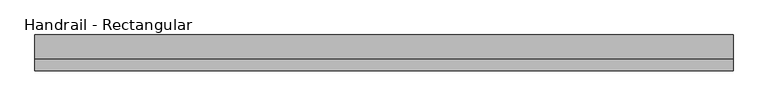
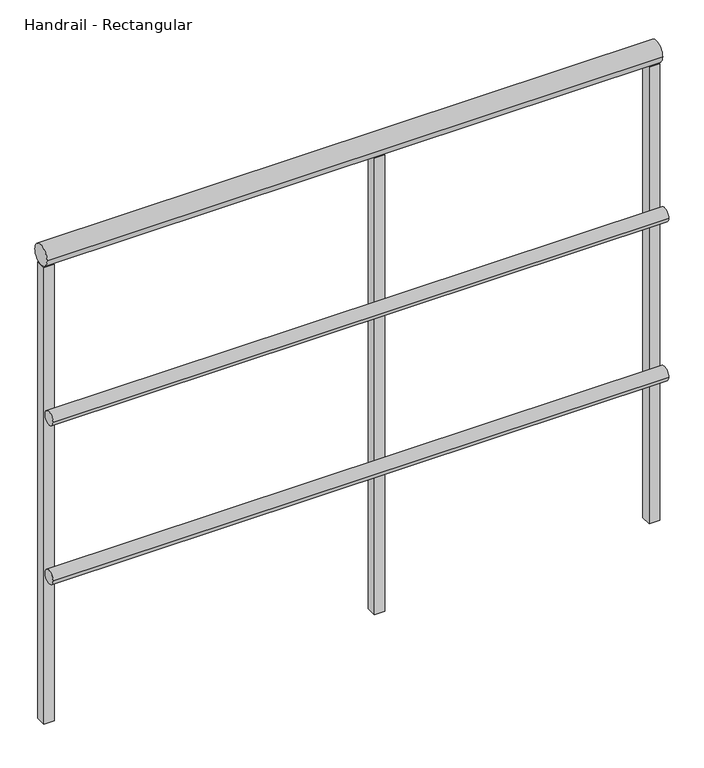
"""IFC4 building model written with IfcOpenShell, lengths in millimetres: railing geometry, Handrail - Rectangular."""

from ifc_helpers import new_model, si_unit, point, frame, frame_2d, origin, place, context, project, spatial, polyline, circle_curve, trimmed, segment, composite_curve, outline, extrude, source, transform, mapped, element, save


def handrail_rectangular_0c64ad7f(model_context):
    return source(origin(), model_context, "Body", "SweptSolid", [
        extrude(outline(composite_curve([segment(trimmed(circle_curve(frame_2d((4350.2316867, 3644.9)), 12.7), [point((4337.5316867, 3644.9))], [point((4362.9316867, 3644.9))], False, "CARTESIAN"), True, "CONTINUOUS"), segment(trimmed(circle_curve(frame_2d((4350.2316867, 3644.9)), 12.7), [point((4362.9316867, 3644.9))], [point((4337.5316867, 3644.9))], False, "CARTESIAN"), True, "CONTINUOUS")], self_intersect=False)), frame((-31964.2839563, 0.0, 0.0), z_axis=(1.0, 0.0, 0.0), x_axis=(0.0, 1.0, 0.0)), (0.0, 0.0, 1.0), 1117.6),
        extrude(outline(composite_curve([segment(trimmed(circle_curve(frame_2d((4350.2316867, 3340.1)), 12.7), [point((4337.5316867, 3340.1))], [point((4362.9316867, 3340.1))], False, "CARTESIAN"), True, "CONTINUOUS"), segment(trimmed(circle_curve(frame_2d((4350.2316867, 3340.1)), 12.7), [point((4362.9316867, 3340.1))], [point((4337.5316867, 3340.1))], False, "CARTESIAN"), True, "CONTINUOUS")], self_intersect=False)), frame((-31964.2839563, 0.0, 0.0), z_axis=(1.0, 0.0, 0.0), x_axis=(0.0, 1.0, 0.0)), (0.0, 0.0, 1.0), 1117.6),
        extrude(outline(composite_curve([segment(trimmed(circle_curve(frame_2d((4375.6316867, 3943.35)), 19.05), [point((4356.5816867, 3943.35))], [point((4394.6816867, 3943.35))], False, "CARTESIAN"), True, "CONTINUOUS"), segment(trimmed(circle_curve(frame_2d((4375.6316867, 3943.35)), 19.05), [point((4394.6816867, 3943.35))], [point((4356.5816867, 3943.35))], False, "CARTESIAN"), True, "CONTINUOUS")], self_intersect=False)), frame((-31964.2839563, 0.0, 0.0), z_axis=(1.0, 0.0, 0.0), x_axis=(0.0, 1.0, 0.0)), (0.0, 0.0, 1.0), 1117.6),
        extrude(outline(polyline([(-31364.2089563, 4385.1566867), (-31345.1589563, 4385.1566867), (-31345.1589563, 4366.1066867), (-31364.2089563, 4366.1066867), (-31364.2089563, 4385.1566867)])), frame((0.0, 0.0, 3048.0), z_axis=(0.0, 0.0, 1.0), x_axis=(1.0, 0.0, 0.0)), (0.0, 0.0, 1.0), 876.3),
        extrude(outline(polyline([(-30865.7339563, 4385.1566867), (-30846.6839563, 4385.1566867), (-30846.6839563, 4366.1066867), (-30865.7339563, 4366.1066867), (-30865.7339563, 4385.1566867)])), frame((0.0, 0.0, 3048.0), z_axis=(0.0, 0.0, 1.0), x_axis=(1.0, 0.0, 0.0)), (0.0, 0.0, 1.0), 876.3),
        extrude(outline(polyline([(-31964.2839563, 4385.1566867), (-31945.2339563, 4385.1566867), (-31945.2339563, 4366.1066867), (-31964.2839563, 4366.1066867), (-31964.2839563, 4385.1566867)])), frame((0.0, 0.0, 3048.0), z_axis=(0.0, 0.0, 1.0), x_axis=(1.0, 0.0, 0.0)), (0.0, 0.0, 1.0), 876.3),
    ])


if __name__ == "__main__":
    model = new_model("IFC4")
    model_context = context("Model", 3, world=origin())
    ifc_project = project(units=[si_unit("LENGTHUNIT", "METRE", prefix="MILLI")], contexts=[model_context])
    site = spatial("IfcSite", under=ifc_project)
    building = spatial("IfcBuilding", under=site)
    placement = place(None, origin())
    handrail_rectangular_shape = handrail_rectangular_0c64ad7f(model_context)
    element("IfcRailing", 1, ObjectType="Handrail - Rectangular", at=placement, inside=building, context=model_context, shape_type="MappedRepresentation", body=[
        mapped(handrail_rectangular_shape, transform((0.0, 0.0, 0.0), x_axis=(1.0, 0.0, 0.0), y_axis=(0.0, 1.0, 0.0), z_axis=(0.0, 0.0, 1.0))),
    ])
    save(model, "model.ifc")
